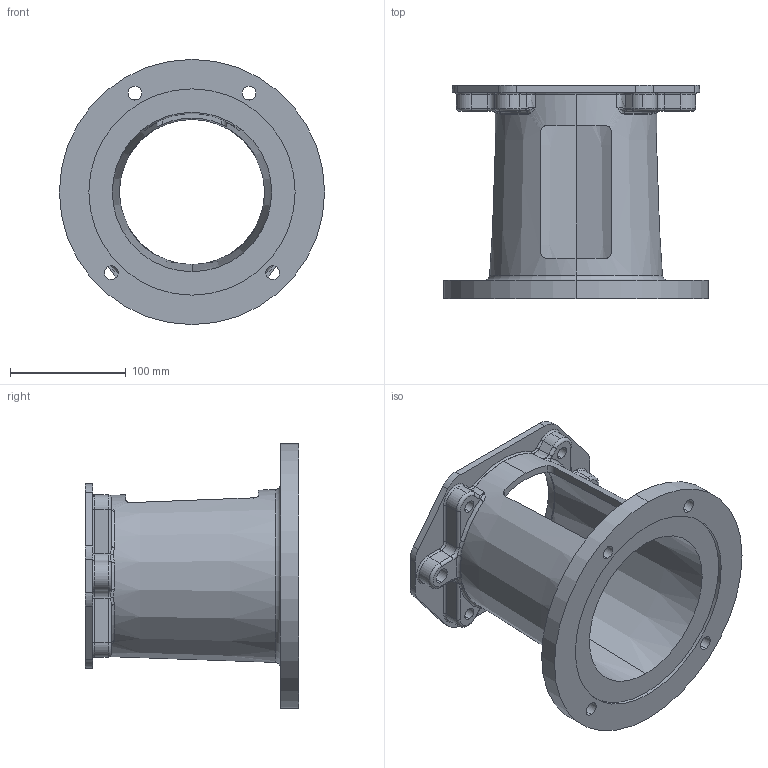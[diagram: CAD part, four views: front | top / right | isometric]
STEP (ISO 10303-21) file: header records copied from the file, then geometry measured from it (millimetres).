
FILE_DESCRIPTION (( 'STEP AP203' ), '1' );
FILE_NAME ('E70072125M.STEP', '2014-11-04T13:33:23', ( '' ), ( '' ), 'SwSTEP 2.0', 'SolidWorks 2014', '' );
FILE_SCHEMA (( 'CONFIG_CONTROL_DESIGN' ));
Length unit declared in the file: inch
Products named in the file (1): E70072125M
Bounding box: 228.6 x 184.15 x 228.6 mm (x, y, z)
Volume: 944560.3 mm3; surface area: 238727 mm2
Topology: 1 solids, 1 shells, 214 faces, 551 edges, 328 vertices
Faces by surface type: cylinder 74, torus 53, bspline 40, plane 35, sphere 8, cone 4
Entity records: 8281 total; most frequent: CARTESIAN_POINT 3236, ORIENTED_EDGE 1078, DIRECTION 1038, EDGE_CURVE 539, AXIS2_PLACEMENT_3D 448, VERTEX_POINT 328, CIRCLE 273, EDGE_LOOP 239
